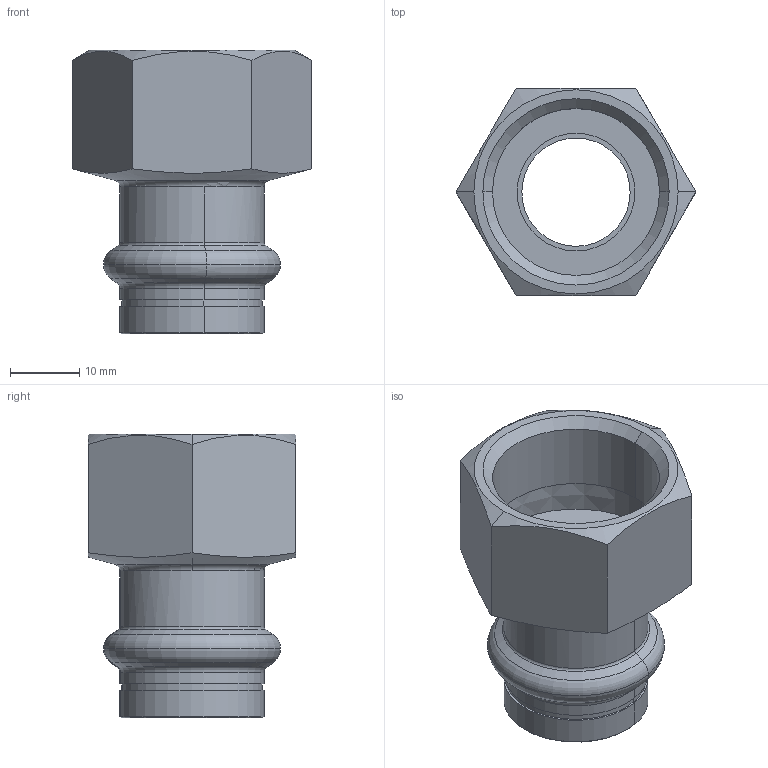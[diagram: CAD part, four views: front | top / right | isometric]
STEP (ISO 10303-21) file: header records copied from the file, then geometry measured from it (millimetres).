
FILE_DESCRIPTION(('CoCreate Modeling STEP Export'),'2;1');
FILE_NAME('8270GVW1834.stp','2013-03-05T11:07:19',(''),(''),'CoCreate Modeling STEP processor for AP214 (Solid Model)','CoCreate Modeling 17.00A 17-Jun-2010 (C) Parametric Technology GmbH','');
FILE_SCHEMA(('AUTOMOTIVE_DESIGN { 1 0 10303 214 1 1 1 1 }'));
Length unit declared in the file: millimetre
Products named in the file (2): 8270GVW1834
Assembly tree (1 placements, depth 2):
  8270GVW1834
    8270GVW1834
Bounding box: 34.64 x 30 x 41 mm (x, y, z)
Volume: 8143 mm3; surface area: 7490.5 mm2
Topology: 1 solids, 1 shells, 61 faces, 129 edges, 75 vertices
Faces by surface type: cone 20, cylinder 18, plane 13, torus 10
Entity records: 2217 total; most frequent: CARTESIAN_POINT 1007, ORIENTED_EDGE 258, DIRECTION 212, EDGE_CURVE 129, AXIS2_PLACEMENT_3D 84, VERTEX_POINT 75, EDGE_LOOP 68, FACE_OUTER_BOUND 61
